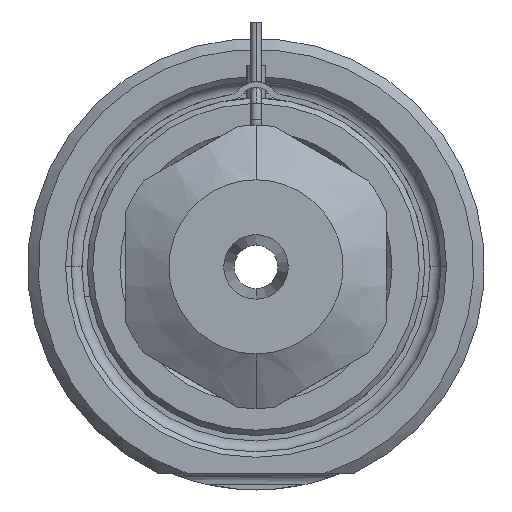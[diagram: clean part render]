
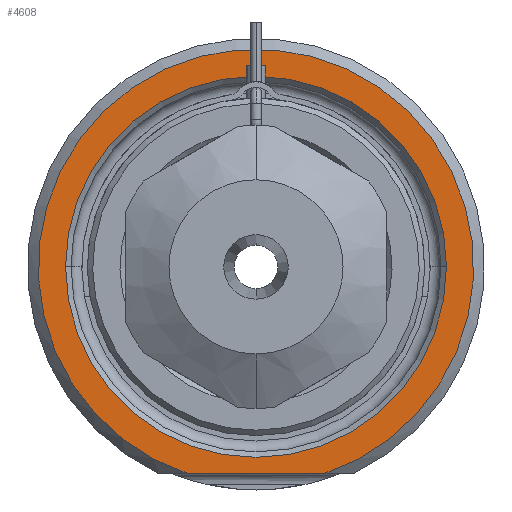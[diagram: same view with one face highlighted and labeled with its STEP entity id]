
A CAD part, front view. The second image highlights one B-rep face of the part: STEP entity #4608.
In plain terms, the highlighted planar face has unit normal (0, -1, 0).
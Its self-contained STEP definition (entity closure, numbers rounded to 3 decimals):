
#1580=CARTESIAN_POINT('',(0.,0.,0.));
#1581=DIRECTION('',(0.,-1.,0.));
#1582=DIRECTION('',(0.312,0.,-0.95));
#1583=AXIS2_PLACEMENT_3D('',#1580,#1581,#1582);
#1604=DIRECTION('',(1.,0.,0.));
#1605=VECTOR('',#1604,12.49);
#1606=CARTESIAN_POINT('',(-6.245,0.,-19.));
#1607=LINE('',#1606,#1605);
#1608=CARTESIAN_POINT('',(0.,0.,0.));
#1609=DIRECTION('',(0.,1.,0.));
#1610=DIRECTION('',(-1.,0.,0.));
#1611=AXIS2_PLACEMENT_3D('',#1608,#1609,#1610);
#1613=CARTESIAN_POINT('',(0.,0.,0.));
#1614=DIRECTION('',(0.,1.,0.));
#1615=DIRECTION('',(1.,0.,0.));
#1616=AXIS2_PLACEMENT_3D('',#1613,#1614,#1615);
#2492=CARTESIAN_POINT('',(-17.5,0.,0.));
#2493=CARTESIAN_POINT('',(17.5,0.,0.));
#2494=VERTEX_POINT('',#2492);
#2495=VERTEX_POINT('',#2493);
#2536=CARTESIAN_POINT('',(-6.245,0.,-19.));
#2537=CARTESIAN_POINT('',(6.245,0.,-19.));
#2538=VERTEX_POINT('',#2536);
#2539=VERTEX_POINT('',#2537);
#4593=CARTESIAN_POINT('',(0.,0.,0.));
#4594=DIRECTION('',(0.,-1.,0.));
#4595=DIRECTION('',(1.,0.,0.));
#4596=AXIS2_PLACEMENT_3D('',#4593,#4594,#4595);
#4597=PLANE('',#4596);
#4598=ORIENTED_EDGE('',*,*,#4525,.F.);
#4599=ORIENTED_EDGE('',*,*,#4585,.F.);
#4600=EDGE_LOOP('',(#4598,#4599));
#4601=FACE_OUTER_BOUND('',#4600,.F.);
#4603=ORIENTED_EDGE('',*,*,#4602,.F.);
#4605=ORIENTED_EDGE('',*,*,#4604,.F.);
#4606=EDGE_LOOP('',(#4603,#4605));
#4607=FACE_BOUND('',#4606,.F.);
#4608=ADVANCED_FACE('',(#4601,#4607),#4597,.T.);
#1584=CIRCLE('',#1583,20.);
#1612=CIRCLE('',#1611,17.5);
#1617=CIRCLE('',#1616,17.5);
#4525=EDGE_CURVE('',#2538,#2539,#1607,.T.);
#4585=EDGE_CURVE('',#2539,#2538,#1584,.T.);
#4602=EDGE_CURVE('',#2494,#2495,#1612,.T.);
#4604=EDGE_CURVE('',#2495,#2494,#1617,.T.);
